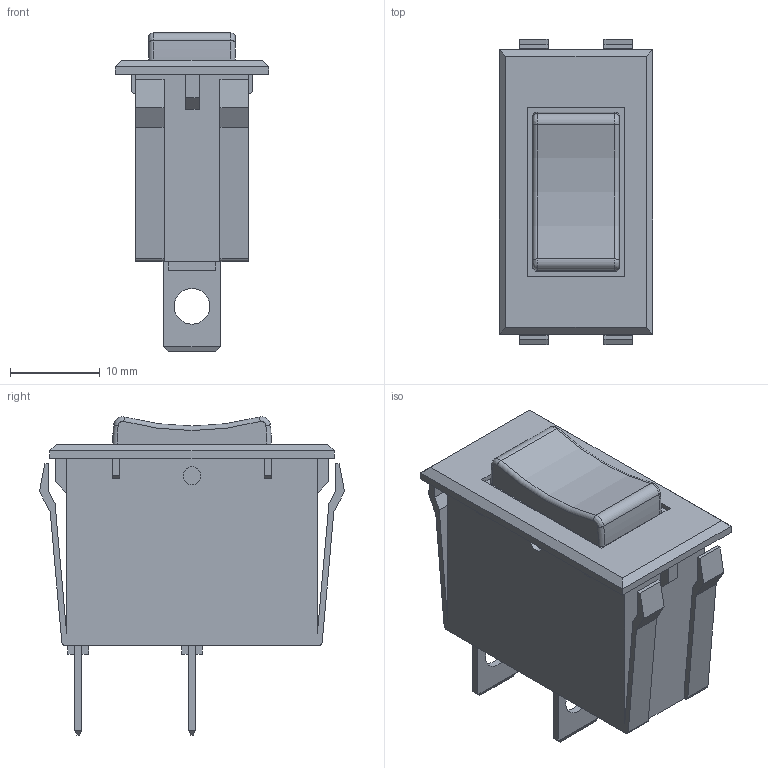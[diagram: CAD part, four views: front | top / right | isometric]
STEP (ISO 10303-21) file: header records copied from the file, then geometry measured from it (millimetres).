
FILE_DESCRIPTION(/* description */ (''),/* implementation_level */ '2;1');
FILE_NAME(/* name */ 'RG1-1A-DC-1-B.stp',/* time_stamp */ '2023-10-13T07:48:58-07:00',/* author */ ('RaniahC'),/* organization */ (''),/* preprocessor_version */ 'ST-DEVELOPER v19.2',/* originating_system */ 'Autodesk Inventor 2024',/* authorisation */ '');
FILE_SCHEMA (('AUTOMOTIVE_DESIGN { 1 0 10303 214 3 1 1 }'));
Length unit declared in the file: millimetre
Products named in the file (3): RG1-1A-DC-1-B (real); Switch Button; Part24
Assembly tree (2 placements, depth 2):
  RG1-1A-DC-1-B (real)
    Switch Button
    Part24
Bounding box: 17.2 x 34.07 x 35.54 mm (x, y, z)
Volume: 8892.3 mm3; surface area: 4331 mm2
Topology: 2 solids, 2 shells, 140 faces, 364 edges, 236 vertices
Faces by surface type: plane 117, cylinder 13, torus 6, bspline 4
Full cylindrical faces by diameter (mm): 2 x2, 3.988 x2
Entity records: 4407 total; most frequent: CARTESIAN_POINT 802, ORIENTED_EDGE 728, DIRECTION 696, EDGE_CURVE 364, LINE 316, VECTOR 316, VERTEX_POINT 236, AXIS2_PLACEMENT_3D 190
